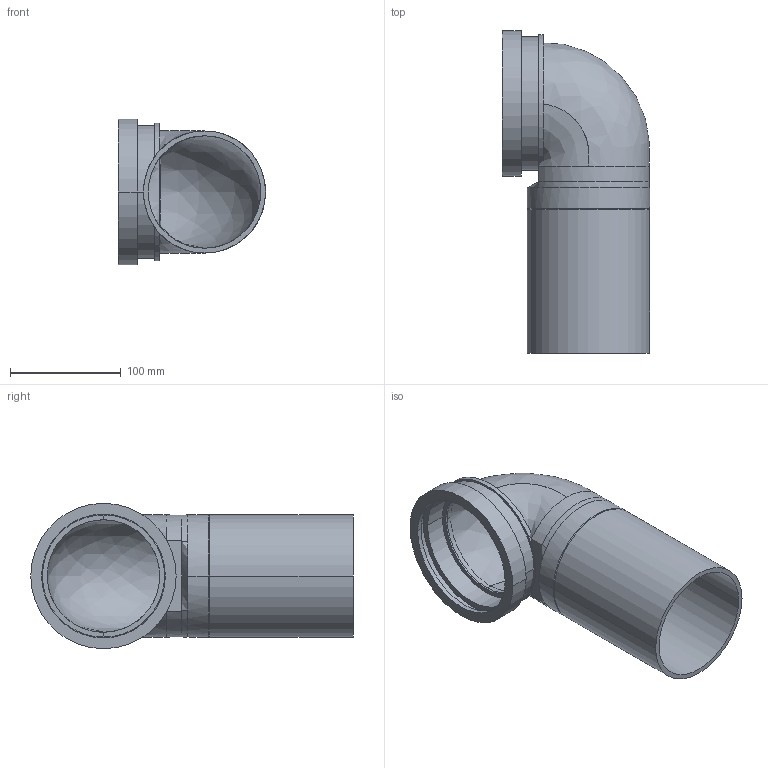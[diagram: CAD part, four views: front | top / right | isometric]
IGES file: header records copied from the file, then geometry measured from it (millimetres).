
Global section: file name: No Iges File Name specified; native system: Autodesk Inventor 2011; preprocessor: AutoDesk Inventor Iges Exporter R2011; author: ML; date: 20110317.231557; units: millimetre
Bounding box: 132.5 x 290.5 x 131 mm (x, y, z)
Volume: 447464.4 mm3; surface area: 216899.2 mm2
Topology: 2 solids, 2 shells, 54 faces, 128 edges, 76 vertices
Faces by surface type: bspline 16, plane 12, cylinder 11, revolution 11, cone 4
